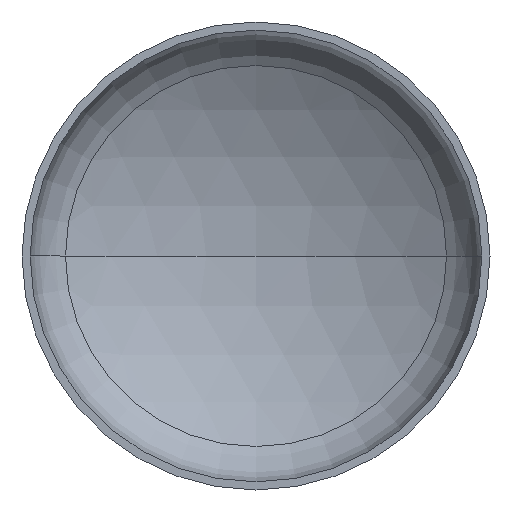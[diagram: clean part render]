
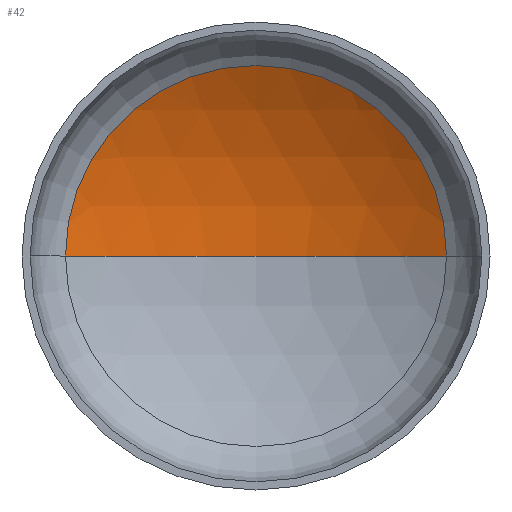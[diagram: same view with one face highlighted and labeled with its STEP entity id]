
A CAD part, front view. The second image highlights one B-rep face of the part: STEP entity #42.
In plain terms, the highlighted spherical face has radius 4400 mm.
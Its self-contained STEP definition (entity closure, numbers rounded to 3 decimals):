
#3 = DIRECTION ( 'NONE',  ( 0., 0., 1. ) ) ;
#16 = AXIS2_PLACEMENT_3D ( 'NONE', #308, #18, #29 ) ;
#18 = DIRECTION ( 'NONE',  ( 0., 0., -1. ) ) ;
#29 = DIRECTION ( 'NONE',  ( -1., 0., 0. ) ) ;
#42 = ADVANCED_FACE ( 'NONE', ( #102 ), #230, .F. ) ;
#44 = CARTESIAN_POINT ( 'NONE',  ( 2238.987, 827.417, 0. ) ) ;
#57 = VERTEX_POINT ( 'NONE', #249 ) ;
#58 = ORIENTED_EDGE ( 'NONE', *, *, #82, .T. ) ;
#70 = AXIS2_PLACEMENT_3D ( 'NONE', #371, #3, #94 ) ;
#73 = CIRCLE ( 'NONE', #70, 4400. ) ;
#82 = EDGE_CURVE ( 'NONE', #154, #302, #332, .T. ) ;
#91 = EDGE_CURVE ( 'NONE', #57, #154, #259, .T. ) ;
#94 = DIRECTION ( 'NONE',  ( 1., 0., 0. ) ) ;
#98 = CARTESIAN_POINT ( 'NONE',  ( 0., -2960.318, 0. ) ) ;
#100 = EDGE_CURVE ( 'NONE', #57, #302, #73, .T. ) ;
#102 = FACE_OUTER_BOUND ( 'NONE', #148, .T. ) ;
#103 = ORIENTED_EDGE ( 'NONE', *, *, #91, .T. ) ;
#115 = DIRECTION ( 'NONE',  ( 1., 0., 0. ) ) ;
#117 = DIRECTION ( 'NONE',  ( 0., -1., 0. ) ) ;
#128 = CARTESIAN_POINT ( 'NONE',  ( 0., 827.417, 0. ) ) ;
#143 = DIRECTION ( 'NONE',  ( 0., 0., -1. ) ) ;
#148 = EDGE_LOOP ( 'NONE', ( #356, #103, #58 ) ) ;
#154 = VERTEX_POINT ( 'NONE', #44 ) ;
#230 = SPHERICAL_SURFACE ( 'NONE', #324, 4400. ) ;
#249 = CARTESIAN_POINT ( 'NONE',  ( 0., 1439.682, 0. ) ) ;
#257 = CARTESIAN_POINT ( 'NONE',  ( -2238.987, 827.417, 0. ) ) ;
#259 = CIRCLE ( 'NONE', #16, 4400. ) ;
#278 = DIRECTION ( 'NONE',  ( -1., 0., 0. ) ) ;
#302 = VERTEX_POINT ( 'NONE', #257 ) ;
#308 = CARTESIAN_POINT ( 'NONE',  ( 0., -2960.318, 0. ) ) ;
#324 = AXIS2_PLACEMENT_3D ( 'NONE', #98, #143, #278 ) ;
#332 = CIRCLE ( 'NONE', #389, 2238.987 ) ;
#356 = ORIENTED_EDGE ( 'NONE', *, *, #100, .F. ) ;
#371 = CARTESIAN_POINT ( 'NONE',  ( 0., -2960.318, 0. ) ) ;
#389 = AXIS2_PLACEMENT_3D ( 'NONE', #128, #117, #115 ) ;
